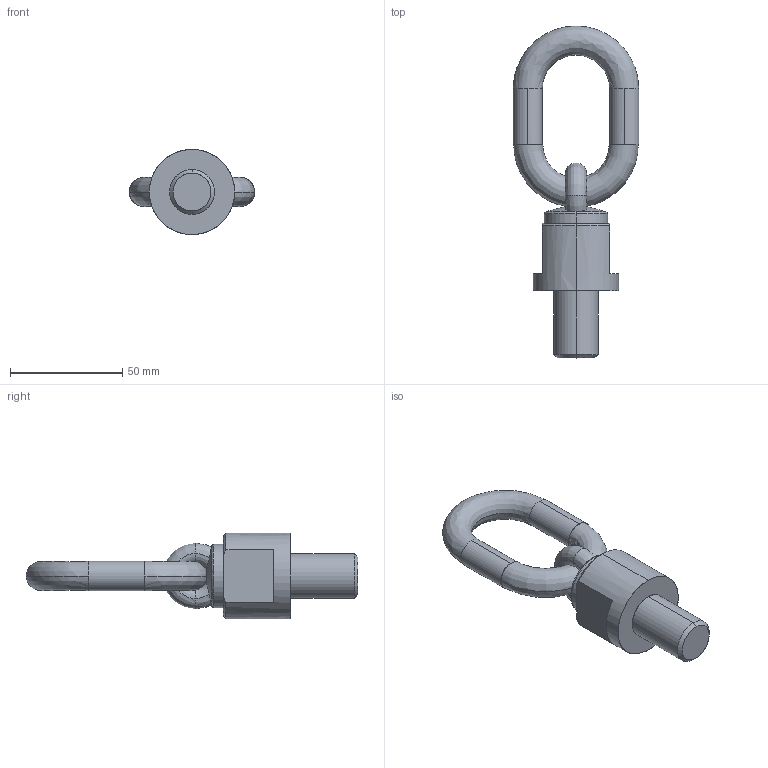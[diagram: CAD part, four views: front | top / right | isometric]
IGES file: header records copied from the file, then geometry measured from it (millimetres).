
Start section: START RECORD GO HERE.
Global section: file name: C800X0172030.igs; native system: DASSAULT SYSTEMES CATIA V5 R20 - www.3ds.com; preprocessor: CATIA Version 5 Release 20 ; author: Utente; organization: NB04-ASUS; date: 20200412.222805; units: millimetre
Bounding box: 56 x 148 x 38 mm (x, y, z)
Surface area: 16179.1 mm2 (no closed solid volume)
Topology: 0 solids, 0 shells, 48 faces, 245 edges, 245 vertices
Faces by surface type: revolution 35, extrusion 13
